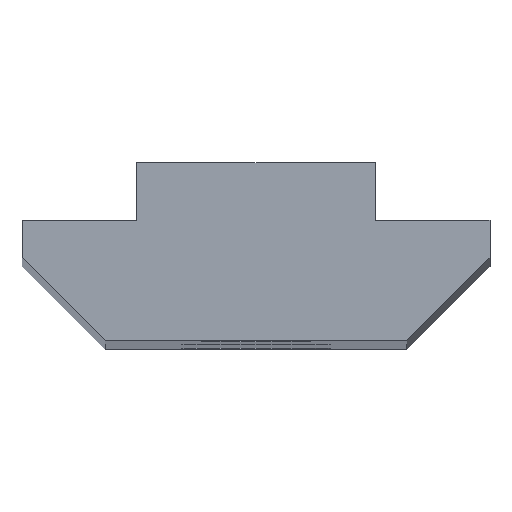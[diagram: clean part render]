
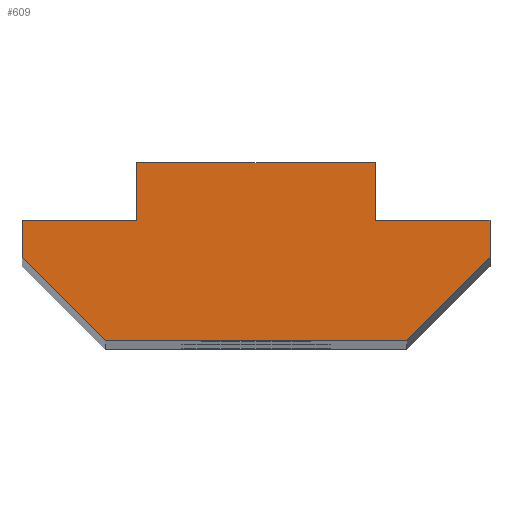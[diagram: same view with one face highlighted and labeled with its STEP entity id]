
A CAD part, top view. The second image highlights one B-rep face of the part: STEP entity #609.
In plain terms, the highlighted planar face has unit normal (0, 0, 1).
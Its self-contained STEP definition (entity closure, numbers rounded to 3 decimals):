
#245=CARTESIAN_POINT('',(215.687,133.052,160.0));
#246=VERTEX_POINT('',#245);
#247=CARTESIAN_POINT('',(219.487,133.052,160.0));
#248=VERTEX_POINT('',#247);
#249=CARTESIAN_POINT('',(215.687,133.052,160.0));
#250=DIRECTION('',(1.0,0.0,0.0));
#251=VECTOR('',#250,3.8);
#252=LINE('',#249,#251);
#253=EDGE_CURVE('',#246,#248,#252,.T.);
#285=CARTESIAN_POINT('',(219.487,134.952,160.0));
#286=VERTEX_POINT('',#285);
#287=CARTESIAN_POINT('',(219.487,133.052,160.0));
#288=DIRECTION('',(0.0,1.0,0.0));
#289=VECTOR('',#288,1.9);
#290=LINE('',#287,#289);
#291=EDGE_CURVE('',#248,#286,#290,.T.);
#316=CARTESIAN_POINT('',(227.387,134.952,160.0));
#317=VERTEX_POINT('',#316);
#318=CARTESIAN_POINT('',(219.487,134.952,160.0));
#319=DIRECTION('',(1.0,0.0,0.0));
#320=VECTOR('',#319,7.9);
#321=LINE('',#318,#320);
#322=EDGE_CURVE('',#286,#317,#321,.T.);
#359=CARTESIAN_POINT('',(227.387,133.052,160.0));
#360=VERTEX_POINT('',#359);
#361=CARTESIAN_POINT('',(227.387,134.952,160.0));
#362=DIRECTION('',(0.0,-1.0,0.0));
#363=VECTOR('',#362,1.9);
#364=LINE('',#361,#363);
#365=EDGE_CURVE('',#317,#360,#364,.T.);
#390=CARTESIAN_POINT('',(231.187,133.052,160.0));
#391=VERTEX_POINT('',#390);
#392=CARTESIAN_POINT('',(227.387,133.052,160.0));
#393=DIRECTION('',(1.0,0.0,0.0));
#394=VECTOR('',#393,3.8);
#395=LINE('',#392,#394);
#396=EDGE_CURVE('',#360,#391,#395,.T.);
#421=CARTESIAN_POINT('',(231.187,131.802,160.0));
#422=VERTEX_POINT('',#421);
#423=CARTESIAN_POINT('',(231.187,133.052,160.0));
#424=DIRECTION('',(0.0,-1.0,0.0));
#425=VECTOR('',#424,1.25);
#426=LINE('',#423,#425);
#427=EDGE_CURVE('',#391,#422,#426,.T.);
#452=CARTESIAN_POINT('',(228.437,129.052,160.0));
#453=VERTEX_POINT('',#452);
#454=CARTESIAN_POINT('',(231.187,131.802,160.0));
#455=DIRECTION('',(-0.707,-0.707,0.0));
#456=VECTOR('',#455,3.889);
#457=LINE('',#454,#456);
#458=EDGE_CURVE('',#422,#453,#457,.T.);
#483=CARTESIAN_POINT('',(218.437,129.052,160.0));
#484=VERTEX_POINT('',#483);
#485=CARTESIAN_POINT('',(228.437,129.052,160.0));
#486=DIRECTION('',(-1.0,0.0,0.0));
#487=VECTOR('',#486,10.0);
#488=LINE('',#485,#487);
#489=EDGE_CURVE('',#453,#484,#488,.T.);
#526=CARTESIAN_POINT('',(215.687,131.802,160.0));
#527=VERTEX_POINT('',#526);
#528=CARTESIAN_POINT('',(218.437,129.052,160.0));
#529=DIRECTION('',(-0.707,0.707,0.0));
#530=VECTOR('',#529,3.889);
#531=LINE('',#528,#530);
#532=EDGE_CURVE('',#484,#527,#531,.T.);
#557=CARTESIAN_POINT('',(215.687,131.802,160.0));
#558=DIRECTION('',(0.0,1.0,0.0));
#559=VECTOR('',#558,1.25);
#560=LINE('',#557,#559);
#561=EDGE_CURVE('',#527,#246,#560,.T.);
#592=CARTESIAN_POINT('',(223.437,131.956,160.0));
#593=DIRECTION('',(0.0,0.0,1.0));
#594=DIRECTION('',(1.0,0.0,0.0));
#595=AXIS2_PLACEMENT_3D('',#592,#593,#594);
#596=PLANE('',#595);
#597=ORIENTED_EDGE('',*,*,#253,.F.);
#598=ORIENTED_EDGE('',*,*,#561,.F.);
#599=ORIENTED_EDGE('',*,*,#532,.F.);
#600=ORIENTED_EDGE('',*,*,#489,.F.);
#601=ORIENTED_EDGE('',*,*,#458,.F.);
#602=ORIENTED_EDGE('',*,*,#427,.F.);
#603=ORIENTED_EDGE('',*,*,#396,.F.);
#604=ORIENTED_EDGE('',*,*,#365,.F.);
#605=ORIENTED_EDGE('',*,*,#322,.F.);
#606=ORIENTED_EDGE('',*,*,#291,.F.);
#607=EDGE_LOOP('',(#597,#598,#599,#600,#601,#602,#603,#604,#605,#606));
#608=FACE_OUTER_BOUND('',#607,.T.);
#609=ADVANCED_FACE('',(#608),#596,.T.);
